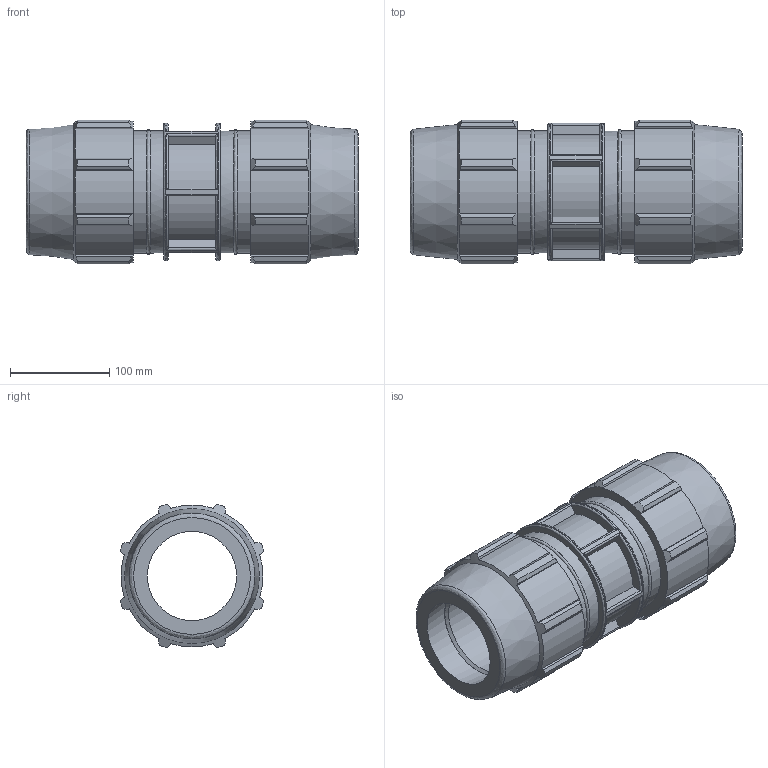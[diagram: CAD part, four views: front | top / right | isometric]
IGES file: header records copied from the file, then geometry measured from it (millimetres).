
Global section: file name: 076100090_186100090_0761060900A.ipt; native system: Autodesk Inventor 2015; preprocessor: unknown; author: KIM; date: 20180617.114135; units: millimetre
Bounding box: 335 x 144.9 x 144.9 mm (x, y, z)
Volume: 2528637.4 mm3; surface area: 285429.2 mm2
Topology: 1 solids, 1 shells, 194 faces, 550 edges, 369 vertices
Faces by surface type: plane 96, cylinder 55, revolution 23, cone 20
Full cylindrical faces by diameter (mm): 123.2 x4, 138.6 x1
